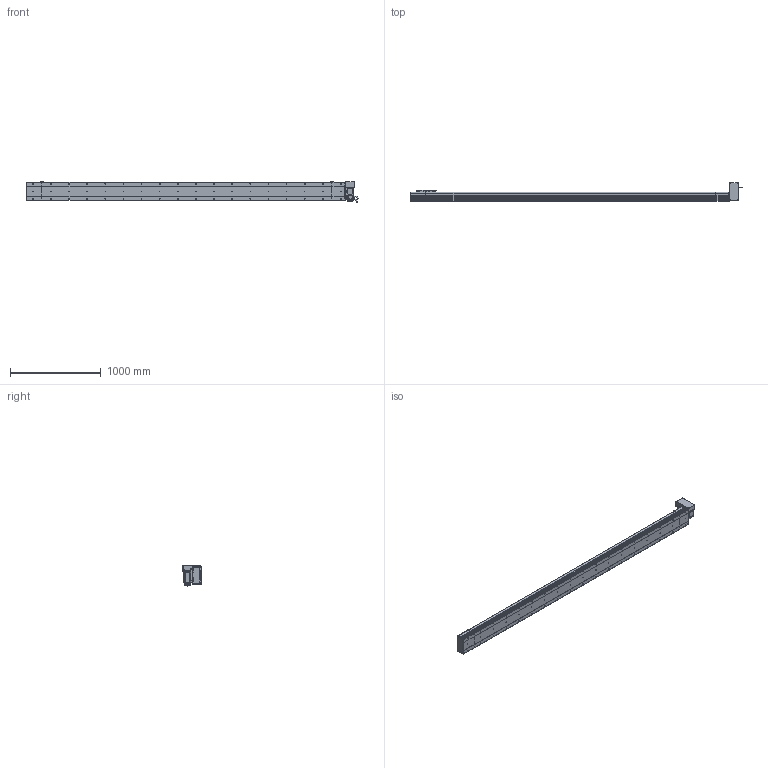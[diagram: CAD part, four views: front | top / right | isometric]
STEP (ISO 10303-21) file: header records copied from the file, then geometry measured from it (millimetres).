
FILE_DESCRIPTION (( 'STEP AP214' ), '1' );
FILE_NAME ('D20 CBH LT S3200.STEP', '2010-06-30T10:47:06', ( 'Conseil Régional Haute-Normandie' ), ( 'Conseil Régional Haute-Normandie' ), 'SwSTEP 2.0', 'SolidWorks 2010', '' );
FILE_SCHEMA (( 'AUTOMOTIVE_DESIGN' ));
Length unit declared in the file: millimetre
Products named in the file (31): vis M5 L15_Default; Chariot D20_Default; Plaque De Serrage D20_Default; Plaque de Bout Tail D20_Default; Couvercle_Default; Support Chariot D20_Default; Couvercle S3200_Default; Glissiere_Default; Corp Tail D20_Default; Tail D20_Default; Corp S3200_Default; Corp D20 S3200_Default; vis M5 L47_Default; D20 CBH LT S3200; Plaque de Bout Head D20 LT_Default; Plaque De Serrage D20 LT_Default; Corp Tail D20 LT_Default; Moteur motionking 90BLDC125A-640; corps 90BLDC125A-640; codeur 90BLDC125-640; Conecteur_Default; vis M5 L30_Default; ecrou_Default; avant 90BLDC125A-640; Conecteur2_Default; Head LT_Default; Support moteur LT_Default; Couvercle LT_Default; Cache Support Moteur LT_Default; Rondelle Cache D20 LT_Default
Assembly tree (66 placements, depth 4):
  D20 CBH LT S3200
    Head LT_Default
      vis M5 L30_Default  x4
      vis M5 L15_Default  x12
      Corp Tail D20 LT_Default
      ecrou_Default  x4
      vis M5 L47_Default  x4
      Rondelle Cache D20 LT_Default  x3
      Moteur motionking 90BLDC125A-640
        Conecteur_Default
        codeur 90BLDC125-640
        corps 90BLDC125A-640
        avant 90BLDC125A-640
        Conecteur2_Default
      Support moteur LT_Default
      Couvercle LT_Default
      Cache Support Moteur LT_Default
      Plaque de Bout Head D20 LT_Default
      Plaque De Serrage D20 LT_Default
    Chariot D20_Default
      vis M5 L15_Default  x8
      Support Chariot D20_Default
      Glissiere_Default
      Chariot D20_Default
    Tail D20_Default
      vis M5 L15_Default  x6
      Plaque De Serrage D20_Default
      Plaque de Bout Tail D20_Default
      Couvercle_Default
      Corp Tail D20_Default
    Corp D20 S3200_Default
      Couvercle S3200_Default
      Corp S3200_Default
Bounding box: 3663.45 x 202.5 x 229.7 mm (x, y, z)
Volume: 24428478.4 mm3; surface area: 4701788.1 mm2
Topology: 103 solids, 103 shells, 3837 faces, 9584 edges, 6232 vertices
Faces by surface type: plane 2116, bspline 806, cylinder 752, torus 91, cone 68, sphere 4
Entity records: 162310 total; most frequent: CARTESIAN_POINT 83497, ORIENTED_EDGE 15636, DIRECTION 11952, EDGE_CURVE 7818, VERTEX_POINT 5176, LINE 4982, VECTOR 4982, AXIS2_PLACEMENT_3D 3485
